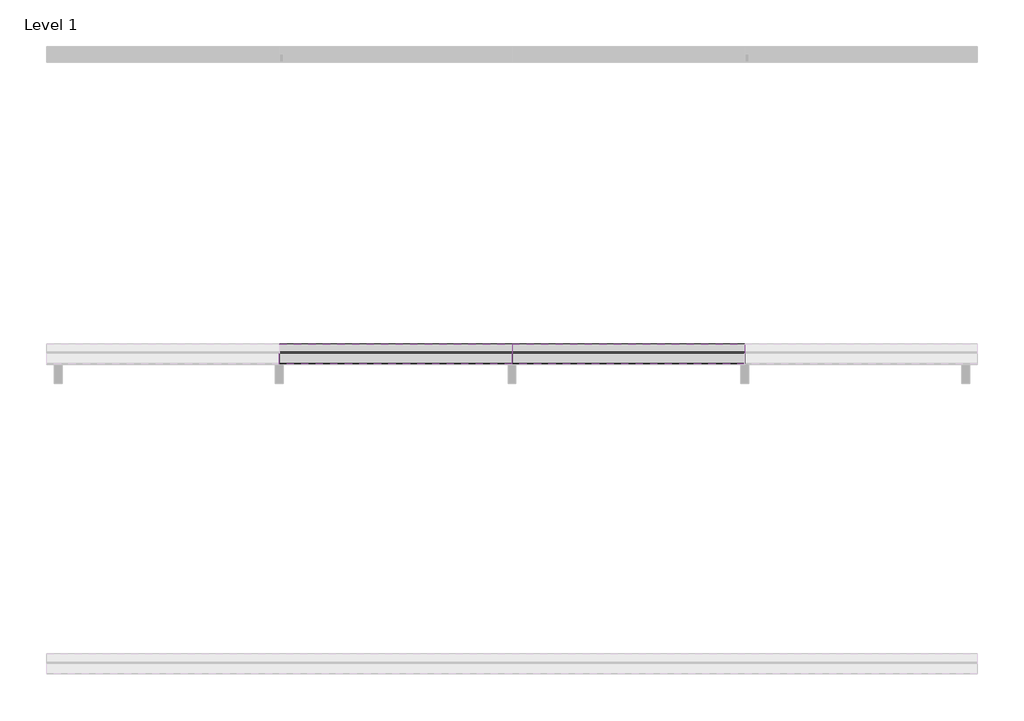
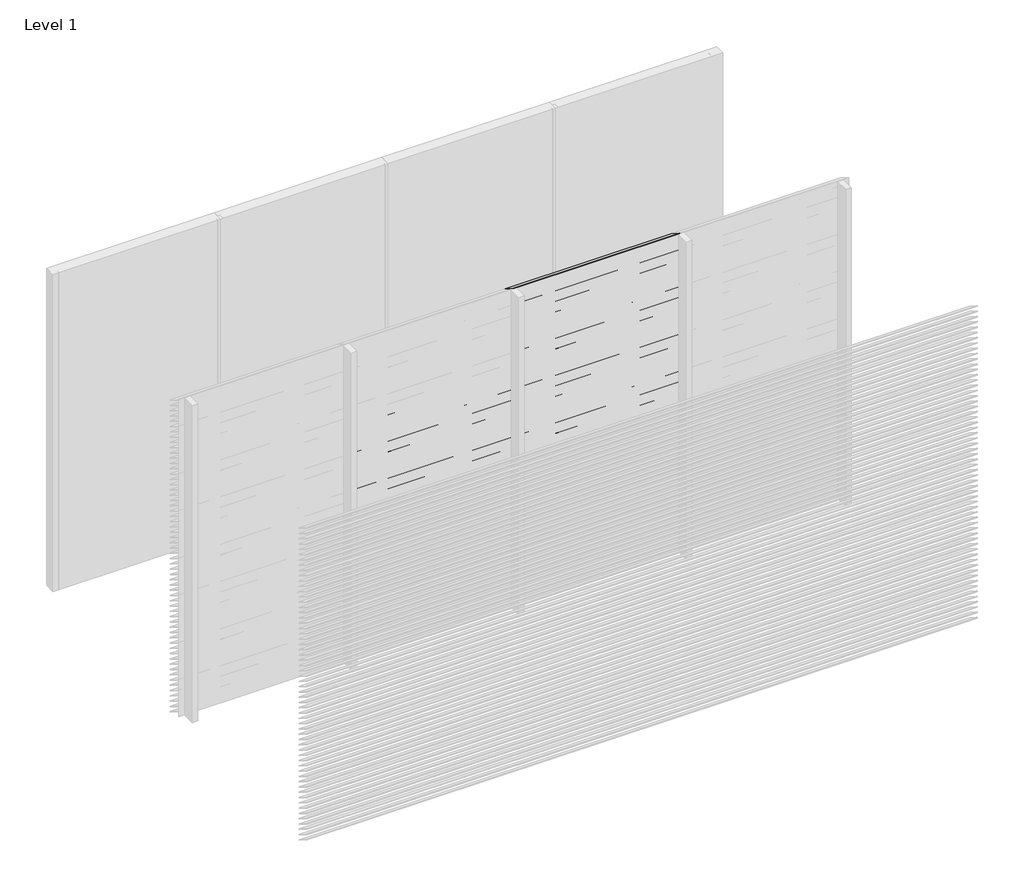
# One storey, part 3 of 13: 95 proxies.
"""IFC4 building model written with IfcOpenShell, lengths in millimetres."""

import ifcopenshell
import ifcopenshell.guid

model = None  # the IFC model being written
_history = None  # IfcOwnerHistory: only IFC2X3 demands one
_inside = {}  # id of a spatial element -> (the spatial element, [elements in it])
_under = {}  # id of a project, library or spatial element -> (it, [spatial elements below it])
_declared = {}  # id of a project -> (the project, [libraries it declares])
_typed = {}  # id of a type object -> (the type object, [elements of that type])
_made_of = {}  # id of a material, layer set ... -> (it, [elements and type objects made of it])


def new_model(schema):
    """Start an empty IFC model of exactly this schema.

    Asked for "IFC4X3", IfcOpenShell would pick the latest addendum, in which some entities
    have other attributes; the version numbers below select the first issue.
    IFC2X3 requires an IfcOwnerHistory on every rooted entity: one is made here for all.
    """
    global model, _history
    if schema == "IFC4X3":
        model = ifcopenshell.file(schema_version=(4, 3, 0, 0))
    else:
        model = ifcopenshell.file(schema=schema)
    _inside.clear()
    _under.clear()
    _declared.clear()
    _typed.clear()
    _made_of.clear()
    _history = None
    if model.schema == "IFC2X3":
        org = make("IfcOrganization", Name="unknown")
        user = make(
            "IfcPersonAndOrganization",
            ThePerson=make("IfcPerson", FamilyName="unknown"),
            TheOrganization=org,
        )
        app = make(
            "IfcApplication",
            ApplicationDeveloper=org,
            Version="unknown",
            ApplicationFullName="unknown",
            ApplicationIdentifier="unknown",
        )
        _history = make(
            "IfcOwnerHistory",
            OwningUser=user,
            OwningApplication=app,
            ChangeAction="ADDED",
            CreationDate=0,
        )
    return model


def make(cls, **values):
    """One entity of the class cls with the attributes given. An attribute that is None is left unset."""
    return model.create_entity(
        cls, **{name: value for name, value in values.items() if value is not None}
    )


def rooted(cls, **values):
    """An entity with a GlobalId (a new one), such as an element, a storey or a relation."""
    return make(cls, GlobalId=ifcopenshell.guid.new(), OwnerHistory=_history, **values)


def si_unit(unit_type, name, prefix=None):
    """IfcSIUnit, for example si_unit("LENGTHUNIT", "METRE", prefix="MILLI")."""
    return make("IfcSIUnit", UnitType=unit_type, Prefix=prefix, Name=name)


def assignment(units):
    """IfcUnitAssignment: the units of a project."""
    return None if units is None else make("IfcUnitAssignment", Units=units)


def point(xyz):
    """IfcCartesianPoint."""
    return None if xyz is None else make("IfcCartesianPoint", Coordinates=xyz)


def direction(xyz):
    """IfcDirection."""
    return None if xyz is None else make("IfcDirection", DirectionRatios=xyz)


def frame(location, z_axis=None, x_axis=None):
    """IfcAxis2Placement3D, a coordinate frame: its origin and axes. An axis left out is left unset."""
    return make(
        "IfcAxis2Placement3D",
        Location=point(location),
        Axis=direction(z_axis),
        RefDirection=direction(x_axis),
    )


def origin():
    """The frame at (0, 0, 0) with its axes left unset."""
    return frame((0.0, 0.0, 0.0))


def place(relative_to, where):
    """IfcLocalPlacement: puts the frame where relative to a parent placement (None: the world)."""
    return make(
        "IfcLocalPlacement", PlacementRelTo=relative_to, RelativePlacement=where
    )


def context(
    kind, dimensions, precision=None, world=None, true_north=None, identifier=None
):
    """IfcGeometricRepresentationContext, for example the 3D "Model" context."""
    return make(
        "IfcGeometricRepresentationContext",
        ContextIdentifier=identifier,
        ContextType=kind,
        CoordinateSpaceDimension=dimensions,
        Precision=precision,
        WorldCoordinateSystem=world,
        TrueNorth=true_north,
    )


def project(units=None, contexts=None):
    """IfcProject with its units and contexts."""
    return rooted(
        "IfcProject",
        Name="project",
        RepresentationContexts=contexts,
        UnitsInContext=assignment(units),
    )


def spatial(cls, under=None, at=None, **own):
    """A site, building, storey or space (cls), placed at a placement, below another one or the project."""
    s = rooted(cls, ObjectPlacement=at, **own)
    if under is not None:
        _under.setdefault(under.id(), (under, []))[1].append(s)
    return s


def polyline(points):
    """IfcPolyline through the points."""
    return make("IfcPolyline", Points=[point(p) for p in points])


def outline(outer, holes=None, kind="AREA"):
    """IfcArbitraryClosedProfileDef: a profile drawn as a closed curve; with holes, ...WithVoids."""
    if holes is None:
        return make("IfcArbitraryClosedProfileDef", ProfileType=kind, OuterCurve=outer)
    return make(
        "IfcArbitraryProfileDefWithVoids",
        ProfileType=kind,
        OuterCurve=outer,
        InnerCurves=holes,
    )


def extrude(swept, where, along, depth):
    """IfcExtrudedAreaSolid: the profile swept, set in the frame where, extruded along a direction by depth."""
    return make(
        "IfcExtrudedAreaSolid",
        SweptArea=swept,
        Position=where,
        ExtrudedDirection=direction(along),
        Depth=depth,
    )


def shape(context_of_items, identifier, shape_type, items):
    """IfcShapeRepresentation: the items that make up one representation, for example the "Body"."""
    return make(
        "IfcShapeRepresentation",
        ContextOfItems=context_of_items,
        RepresentationIdentifier=identifier,
        RepresentationType=shape_type,
        Items=items,
    )


def made_of(thing, what):
    """Note that an element or type object is made of a material, layer set ...; save() writes the relation."""
    if what is not None:
        _made_of.setdefault(what.id(), (what, []))[1].append(thing)
    return thing


def element(
    cls,
    number,
    at=None,
    inside=None,
    cuts=None,
    type_object=None,
    material=None,
    context=None,
    identifier="Body",
    shape_type=None,
    held_by="IfcProductDefinitionShape",
    body=None,
    shapes=None,
    **own,
):
    """One element of the class cls, such as IfcWall. Its Tag is "e" and its number.

    at: its placement. inside: the storey or other place that contains it. cuts: it is an
    opening in that element (IfcRelVoidsElement). A single representation is given by context,
    identifier, shape_type and body (its items); several are given by shapes. held_by: the class
    of the entity that holds the representations. save() writes the other relations.
    """
    e = rooted(cls, Tag="e%d" % number, ObjectPlacement=at, **own)
    if body is not None:
        shapes = [shape(context, identifier, shape_type, body)]
    if shapes is not None:
        e.Representation = make(held_by, Representations=shapes)
    if inside is not None:
        _inside.setdefault(inside.id(), (inside, []))[1].append(e)
    if cuts is not None:
        rooted(
            "IfcRelVoidsElement", RelatingBuildingElement=cuts, RelatedOpeningElement=e
        )
    if type_object is not None:
        _typed.setdefault(type_object.id(), (type_object, []))[1].append(e)
    return made_of(e, material)


def aggregate(whole, parts):
    """IfcRelAggregates: a whole, such as a stair, and the parts it consists of."""
    return rooted("IfcRelAggregates", RelatingObject=whole, RelatedObjects=parts)


def save(model, path):
    """Write the relations noted so far, then the file.

    IfcRelAggregates (storeys below a building ...), IfcRelContainedInSpatialStructure (elements
    in a storey), IfcRelDefinesByType, IfcRelAssociatesMaterial and IfcRelDeclares: one each for
    every whole, place, type object, material and project.
    """
    for whole, parts in _under.values():
        aggregate(whole, parts)
    for where, things in _inside.values():
        rooted(
            "IfcRelContainedInSpatialStructure",
            RelatedElements=things,
            RelatingStructure=where,
        )
    for kind, things in _typed.values():
        rooted("IfcRelDefinesByType", RelatedObjects=things, RelatingType=kind)
    for what, things in _made_of.values():
        rooted("IfcRelAssociatesMaterial", RelatedObjects=things, RelatingMaterial=what)
    for by, libraries in _declared.values():
        rooted("IfcRelDeclares", RelatingContext=by, RelatedDefinitions=libraries)
    model.write(path)


model = new_model("IFC4")

# Units and contexts
model_context = context("Model", 3, world=origin())
ifc_project = project(units=[si_unit("LENGTHUNIT", "METRE", prefix="MILLI")], contexts=[model_context])

# Site, building, storey
site = spatial("IfcSite", under=ifc_project)
building = spatial("IfcBuilding", under=site)
storey = spatial("IfcBuildingStorey", under=building, Name="Level 1", Elevation=0.0)

# Proxies
placement = place(None, origin())
element("IfcBuildingElementProxy", 1, Name="Wall Sweeps", at=placement, inside=storey, context=model_context, shape_type="SweptSolid", body=[
    extrude(outline(polyline([(-17995.0, 3000.0), (-17995.0, 2998.0), (-17868.0, 2919.0), (-17868.0, 2913.0), (-17997.0, 2993.2440945), (-17997.0, 3000.0), (-17995.0, 3000.0)])), frame((3000.0, 0.0, 0.0), z_axis=(1.0, 0.0, 0.0), x_axis=(0.0, 1.0, 0.0)), (0.0, 0.0, 1.0), 1499.9999998),
])
element("IfcBuildingElementProxy", 2, Name="Wall Sweeps", at=placement, inside=storey, context=model_context, shape_type="SweptSolid", body=[
    extrude(outline(polyline([(-17995.0, 2950.0), (-17995.0, 2948.0), (-17868.0, 2869.0), (-17868.0, 2863.0), (-17997.0, 2943.2440945), (-17997.0, 2950.0), (-17995.0, 2950.0)])), frame((3000.0, 0.0, 0.0), z_axis=(1.0, 0.0, 0.0), x_axis=(0.0, 1.0, 0.0)), (0.0, 0.0, 1.0), 1499.9999998),
])
element("IfcBuildingElementProxy", 3, Name="Wall Sweeps", at=placement, inside=storey, context=model_context, shape_type="SweptSolid", body=[
    extrude(outline(polyline([(-17995.0, 2900.0), (-17995.0, 2898.0), (-17868.0, 2819.0), (-17868.0, 2813.0), (-17997.0, 2893.2440945), (-17997.0, 2900.0), (-17995.0, 2900.0)])), frame((3000.0, 0.0, 0.0), z_axis=(1.0, 0.0, 0.0), x_axis=(0.0, 1.0, 0.0)), (0.0, 0.0, 1.0), 1499.9999998),
])
element("IfcBuildingElementProxy", 4, Name="Wall Sweeps", at=placement, inside=storey, context=model_context, shape_type="SweptSolid", body=[
    extrude(outline(polyline([(-17995.0, 2850.0), (-17995.0, 2848.0), (-17868.0, 2769.0), (-17868.0, 2763.0), (-17997.0, 2843.2440945), (-17997.0, 2850.0), (-17995.0, 2850.0)])), frame((3000.0, 0.0, 0.0), z_axis=(1.0, 0.0, 0.0), x_axis=(0.0, 1.0, 0.0)), (0.0, 0.0, 1.0), 1499.9999998),
])
element("IfcBuildingElementProxy", 5, Name="Wall Sweeps", at=placement, inside=storey, context=model_context, shape_type="SweptSolid", body=[
    extrude(outline(polyline([(-17995.0, 2800.0), (-17995.0, 2798.0), (-17868.0, 2719.0), (-17868.0, 2713.0), (-17997.0, 2793.2440945), (-17997.0, 2800.0), (-17995.0, 2800.0)])), frame((3000.0, 0.0, 0.0), z_axis=(1.0, 0.0, 0.0), x_axis=(0.0, 1.0, 0.0)), (0.0, 0.0, 1.0), 1499.9999998),
])
element("IfcBuildingElementProxy", 6, Name="Wall Sweeps", at=placement, inside=storey, context=model_context, shape_type="SweptSolid", body=[
    extrude(outline(polyline([(-17995.0, 2750.0), (-17995.0, 2748.0), (-17868.0, 2669.0), (-17868.0, 2663.0), (-17997.0, 2743.2440945), (-17997.0, 2750.0), (-17995.0, 2750.0)])), frame((3000.0, 0.0, 0.0), z_axis=(1.0, 0.0, 0.0), x_axis=(0.0, 1.0, 0.0)), (0.0, 0.0, 1.0), 1499.9999998),
])
element("IfcBuildingElementProxy", 7, Name="Wall Sweeps", at=placement, inside=storey, context=model_context, shape_type="SweptSolid", body=[
    extrude(outline(polyline([(-17995.0, 2700.0), (-17995.0, 2698.0), (-17868.0, 2619.0), (-17868.0, 2613.0), (-17997.0, 2693.2440945), (-17997.0, 2700.0), (-17995.0, 2700.0)])), frame((3000.0, 0.0, 0.0), z_axis=(1.0, 0.0, 0.0), x_axis=(0.0, 1.0, 0.0)), (0.0, 0.0, 1.0), 1499.9999998),
])
element("IfcBuildingElementProxy", 8, Name="Wall Sweeps", at=placement, inside=storey, context=model_context, shape_type="SweptSolid", body=[
    extrude(outline(polyline([(-17995.0, 2650.0), (-17995.0, 2648.0), (-17868.0, 2569.0), (-17868.0, 2563.0), (-17997.0, 2643.2440945), (-17997.0, 2650.0), (-17995.0, 2650.0)])), frame((3000.0, 0.0, 0.0), z_axis=(1.0, 0.0, 0.0), x_axis=(0.0, 1.0, 0.0)), (0.0, 0.0, 1.0), 1499.9999998),
])
element("IfcBuildingElementProxy", 9, Name="Wall Sweeps", at=placement, inside=storey, context=model_context, shape_type="SweptSolid", body=[
    extrude(outline(polyline([(-17995.0, 2600.0), (-17995.0, 2598.0), (-17868.0, 2519.0), (-17868.0, 2513.0), (-17997.0, 2593.2440945), (-17997.0, 2600.0), (-17995.0, 2600.0)])), frame((3000.0, 0.0, 0.0), z_axis=(1.0, 0.0, 0.0), x_axis=(0.0, 1.0, 0.0)), (0.0, 0.0, 1.0), 1499.9999998),
])
element("IfcBuildingElementProxy", 10, Name="Wall Sweeps", at=placement, inside=storey, context=model_context, shape_type="SweptSolid", body=[
    extrude(outline(polyline([(-17995.0, 2550.0), (-17995.0, 2548.0), (-17868.0, 2469.0), (-17868.0, 2463.0), (-17997.0, 2543.2440945), (-17997.0, 2550.0), (-17995.0, 2550.0)])), frame((3000.0, 0.0, 0.0), z_axis=(1.0, 0.0, 0.0), x_axis=(0.0, 1.0, 0.0)), (0.0, 0.0, 1.0), 1499.9999998),
])
element("IfcBuildingElementProxy", 11, Name="Wall Sweeps", at=placement, inside=storey, context=model_context, shape_type="SweptSolid", body=[
    extrude(outline(polyline([(-17995.0, 2500.0), (-17995.0, 2498.0), (-17868.0, 2419.0), (-17868.0, 2413.0), (-17997.0, 2493.2440945), (-17997.0, 2500.0), (-17995.0, 2500.0)])), frame((3000.0, 0.0, 0.0), z_axis=(1.0, 0.0, 0.0), x_axis=(0.0, 1.0, 0.0)), (0.0, 0.0, 1.0), 1499.9999998),
])
element("IfcBuildingElementProxy", 12, Name="Wall Sweeps", at=placement, inside=storey, context=model_context, shape_type="SweptSolid", body=[
    extrude(outline(polyline([(-17995.0, 2450.0), (-17995.0, 2448.0), (-17868.0, 2369.0), (-17868.0, 2363.0), (-17997.0, 2443.2440945), (-17997.0, 2450.0), (-17995.0, 2450.0)])), frame((3000.0, 0.0, 0.0), z_axis=(1.0, 0.0, 0.0), x_axis=(0.0, 1.0, 0.0)), (0.0, 0.0, 1.0), 1499.9999998),
])
element("IfcBuildingElementProxy", 13, Name="Wall Sweeps", at=placement, inside=storey, context=model_context, shape_type="SweptSolid", body=[
    extrude(outline(polyline([(-17995.0, 2400.0), (-17995.0, 2398.0), (-17868.0, 2319.0), (-17868.0, 2313.0), (-17997.0, 2393.2440945), (-17997.0, 2400.0), (-17995.0, 2400.0)])), frame((3000.0, 0.0, 0.0), z_axis=(1.0, 0.0, 0.0), x_axis=(0.0, 1.0, 0.0)), (0.0, 0.0, 1.0), 1499.9999998),
])
element("IfcBuildingElementProxy", 14, Name="Wall Sweeps", at=placement, inside=storey, context=model_context, shape_type="SweptSolid", body=[
    extrude(outline(polyline([(-17995.0, 2350.0), (-17995.0, 2348.0), (-17868.0, 2269.0), (-17868.0, 2263.0), (-17997.0, 2343.2440945), (-17997.0, 2350.0), (-17995.0, 2350.0)])), frame((3000.0, 0.0, 0.0), z_axis=(1.0, 0.0, 0.0), x_axis=(0.0, 1.0, 0.0)), (0.0, 0.0, 1.0), 1499.9999998),
])
element("IfcBuildingElementProxy", 15, Name="Wall Sweeps", at=placement, inside=storey, context=model_context, shape_type="SweptSolid", body=[
    extrude(outline(polyline([(-17995.0, 2300.0), (-17995.0, 2298.0), (-17868.0, 2219.0), (-17868.0, 2213.0), (-17997.0, 2293.2440945), (-17997.0, 2300.0), (-17995.0, 2300.0)])), frame((3000.0, 0.0, 0.0), z_axis=(1.0, 0.0, 0.0), x_axis=(0.0, 1.0, 0.0)), (0.0, 0.0, 1.0), 1499.9999998),
])
element("IfcBuildingElementProxy", 16, Name="Wall Sweeps", at=placement, inside=storey, context=model_context, shape_type="SweptSolid", body=[
    extrude(outline(polyline([(-17995.0, 2250.0), (-17995.0, 2248.0), (-17868.0, 2169.0), (-17868.0, 2163.0), (-17997.0, 2243.2440945), (-17997.0, 2250.0), (-17995.0, 2250.0)])), frame((3000.0, 0.0, 0.0), z_axis=(1.0, 0.0, 0.0), x_axis=(0.0, 1.0, 0.0)), (0.0, 0.0, 1.0), 1499.9999998),
])
element("IfcBuildingElementProxy", 17, Name="Wall Sweeps", at=placement, inside=storey, context=model_context, shape_type="SweptSolid", body=[
    extrude(outline(polyline([(-17995.0, 2200.0), (-17995.0, 2198.0), (-17868.0, 2119.0), (-17868.0, 2113.0), (-17997.0, 2193.2440945), (-17997.0, 2200.0), (-17995.0, 2200.0)])), frame((3000.0, 0.0, 0.0), z_axis=(1.0, 0.0, 0.0), x_axis=(0.0, 1.0, 0.0)), (0.0, 0.0, 1.0), 1499.9999998),
])
element("IfcBuildingElementProxy", 18, Name="Wall Sweeps", at=placement, inside=storey, context=model_context, shape_type="SweptSolid", body=[
    extrude(outline(polyline([(-17995.0, 2150.0), (-17995.0, 2148.0), (-17868.0, 2069.0), (-17868.0, 2063.0), (-17997.0, 2143.2440945), (-17997.0, 2150.0), (-17995.0, 2150.0)])), frame((3000.0, 0.0, 0.0), z_axis=(1.0, 0.0, 0.0), x_axis=(0.0, 1.0, 0.0)), (0.0, 0.0, 1.0), 1499.9999998),
])
element("IfcBuildingElementProxy", 19, Name="Wall Sweeps", at=placement, inside=storey, context=model_context, shape_type="SweptSolid", body=[
    extrude(outline(polyline([(-17995.0, 2100.0), (-17995.0, 2098.0), (-17868.0, 2019.0), (-17868.0, 2013.0), (-17997.0, 2093.2440945), (-17997.0, 2100.0), (-17995.0, 2100.0)])), frame((3000.0, 0.0, 0.0), z_axis=(1.0, 0.0, 0.0), x_axis=(0.0, 1.0, 0.0)), (0.0, 0.0, 1.0), 1499.9999998),
])
element("IfcBuildingElementProxy", 20, Name="Wall Sweeps", at=placement, inside=storey, context=model_context, shape_type="SweptSolid", body=[
    extrude(outline(polyline([(-17995.0, 2050.0), (-17995.0, 2048.0), (-17868.0, 1969.0), (-17868.0, 1963.0), (-17997.0, 2043.2440945), (-17997.0, 2050.0), (-17995.0, 2050.0)])), frame((3000.0, 0.0, 0.0), z_axis=(1.0, 0.0, 0.0), x_axis=(0.0, 1.0, 0.0)), (0.0, 0.0, 1.0), 1499.9999998),
])
element("IfcBuildingElementProxy", 21, Name="Wall Sweeps", at=placement, inside=storey, context=model_context, shape_type="SweptSolid", body=[
    extrude(outline(polyline([(-17995.0, 2000.0), (-17995.0, 1998.0), (-17868.0, 1919.0), (-17868.0, 1913.0), (-17997.0, 1993.2440945), (-17997.0, 2000.0), (-17995.0, 2000.0)])), frame((3000.0, 0.0, 0.0), z_axis=(1.0, 0.0, 0.0), x_axis=(0.0, 1.0, 0.0)), (0.0, 0.0, 1.0), 1499.9999998),
])
element("IfcBuildingElementProxy", 22, Name="Wall Sweeps", at=placement, inside=storey, context=model_context, shape_type="SweptSolid", body=[
    extrude(outline(polyline([(-17995.0, 1950.0), (-17995.0, 1948.0), (-17868.0, 1869.0), (-17868.0, 1863.0), (-17997.0, 1943.2440945), (-17997.0, 1950.0), (-17995.0, 1950.0)])), frame((3000.0, 0.0, 0.0), z_axis=(1.0, 0.0, 0.0), x_axis=(0.0, 1.0, 0.0)), (0.0, 0.0, 1.0), 1499.9999998),
])
element("IfcBuildingElementProxy", 23, Name="Wall Sweeps", at=placement, inside=storey, context=model_context, shape_type="SweptSolid", body=[
    extrude(outline(polyline([(-17995.0, 1900.0), (-17995.0, 1898.0), (-17868.0, 1819.0), (-17868.0, 1813.0), (-17997.0, 1893.2440945), (-17997.0, 1900.0), (-17995.0, 1900.0)])), frame((3000.0, 0.0, 0.0), z_axis=(1.0, 0.0, 0.0), x_axis=(0.0, 1.0, 0.0)), (0.0, 0.0, 1.0), 1499.9999998),
])
element("IfcBuildingElementProxy", 24, Name="Wall Sweeps", at=placement, inside=storey, context=model_context, shape_type="SweptSolid", body=[
    extrude(outline(polyline([(-17995.0, 1850.0), (-17995.0, 1848.0), (-17868.0, 1769.0), (-17868.0, 1763.0), (-17997.0, 1843.2440945), (-17997.0, 1850.0), (-17995.0, 1850.0)])), frame((3000.0, 0.0, 0.0), z_axis=(1.0, 0.0, 0.0), x_axis=(0.0, 1.0, 0.0)), (0.0, 0.0, 1.0), 1499.9999998),
])
element("IfcBuildingElementProxy", 25, Name="Wall Sweeps", at=placement, inside=storey, context=model_context, shape_type="SweptSolid", body=[
    extrude(outline(polyline([(-17995.0, 1800.0), (-17995.0, 1798.0), (-17868.0, 1719.0), (-17868.0, 1713.0), (-17997.0, 1793.2440945), (-17997.0, 1800.0), (-17995.0, 1800.0)])), frame((3000.0, 0.0, 0.0), z_axis=(1.0, 0.0, 0.0), x_axis=(0.0, 1.0, 0.0)), (0.0, 0.0, 1.0), 1499.9999998),
])
element("IfcBuildingElementProxy", 26, Name="Wall Sweeps", at=placement, inside=storey, context=model_context, shape_type="SweptSolid", body=[
    extrude(outline(polyline([(-17995.0, 1750.0), (-17995.0, 1748.0), (-17868.0, 1669.0), (-17868.0, 1663.0), (-17997.0, 1743.2440945), (-17997.0, 1750.0), (-17995.0, 1750.0)])), frame((3000.0, 0.0, 0.0), z_axis=(1.0, 0.0, 0.0), x_axis=(0.0, 1.0, 0.0)), (0.0, 0.0, 1.0), 1499.9999998),
])
element("IfcBuildingElementProxy", 27, Name="Wall Sweeps", at=placement, inside=storey, context=model_context, shape_type="SweptSolid", body=[
    extrude(outline(polyline([(-17995.0, 1700.0), (-17995.0, 1698.0), (-17868.0, 1619.0), (-17868.0, 1613.0), (-17997.0, 1693.2440945), (-17997.0, 1700.0), (-17995.0, 1700.0)])), frame((3000.0, 0.0, 0.0), z_axis=(1.0, 0.0, 0.0), x_axis=(0.0, 1.0, 0.0)), (0.0, 0.0, 1.0), 1499.9999998),
])
element("IfcBuildingElementProxy", 28, Name="Wall Sweeps", at=placement, inside=storey, context=model_context, shape_type="SweptSolid", body=[
    extrude(outline(polyline([(-17995.0, 1650.0), (-17995.0, 1648.0), (-17868.0, 1569.0), (-17868.0, 1563.0), (-17997.0, 1643.2440945), (-17997.0, 1650.0), (-17995.0, 1650.0)])), frame((3000.0, 0.0, 0.0), z_axis=(1.0, 0.0, 0.0), x_axis=(0.0, 1.0, 0.0)), (0.0, 0.0, 1.0), 1499.9999998),
])
element("IfcBuildingElementProxy", 29, Name="Wall Sweeps", at=placement, inside=storey, context=model_context, shape_type="SweptSolid", body=[
    extrude(outline(polyline([(-17995.0, 1600.0), (-17995.0, 1598.0), (-17868.0, 1519.0), (-17868.0, 1513.0), (-17997.0, 1593.2440945), (-17997.0, 1600.0), (-17995.0, 1600.0)])), frame((3000.0, 0.0, 0.0), z_axis=(1.0, 0.0, 0.0), x_axis=(0.0, 1.0, 0.0)), (0.0, 0.0, 1.0), 1499.9999998),
])
element("IfcBuildingElementProxy", 30, Name="Wall Sweeps", at=placement, inside=storey, context=model_context, shape_type="SweptSolid", body=[
    extrude(outline(polyline([(-17995.0, 1550.0), (-17995.0, 1548.0), (-17868.0, 1469.0), (-17868.0, 1463.0), (-17997.0, 1543.2440945), (-17997.0, 1550.0), (-17995.0, 1550.0)])), frame((3000.0, 0.0, 0.0), z_axis=(1.0, 0.0, 0.0), x_axis=(0.0, 1.0, 0.0)), (0.0, 0.0, 1.0), 1499.9999998),
])
element("IfcBuildingElementProxy", 31, Name="Wall Sweeps", at=placement, inside=storey, context=model_context, shape_type="SweptSolid", body=[
    extrude(outline(polyline([(-17995.0, 1500.0), (-17995.0, 1498.0), (-17868.0, 1419.0), (-17868.0, 1413.0), (-17997.0, 1493.2440945), (-17997.0, 1500.0), (-17995.0, 1500.0)])), frame((3000.0, 0.0, 0.0), z_axis=(1.0, 0.0, 0.0), x_axis=(0.0, 1.0, 0.0)), (0.0, 0.0, 1.0), 1499.9999998),
])
element("IfcBuildingElementProxy", 32, Name="Wall Sweeps", at=placement, inside=storey, context=model_context, shape_type="SweptSolid", body=[
    extrude(outline(polyline([(-17995.0, 1450.0), (-17995.0, 1448.0), (-17868.0, 1369.0), (-17868.0, 1363.0), (-17997.0, 1443.2440945), (-17997.0, 1450.0), (-17995.0, 1450.0)])), frame((3000.0, 0.0, 0.0), z_axis=(1.0, 0.0, 0.0), x_axis=(0.0, 1.0, 0.0)), (0.0, 0.0, 1.0), 1499.9999998),
])
element("IfcBuildingElementProxy", 33, Name="Wall Sweeps", at=placement, inside=storey, context=model_context, shape_type="SweptSolid", body=[
    extrude(outline(polyline([(-17995.0, 1400.0), (-17995.0, 1398.0), (-17868.0, 1319.0), (-17868.0, 1313.0), (-17997.0, 1393.2440945), (-17997.0, 1400.0), (-17995.0, 1400.0)])), frame((3000.0, 0.0, 0.0), z_axis=(1.0, 0.0, 0.0), x_axis=(0.0, 1.0, 0.0)), (0.0, 0.0, 1.0), 1499.9999998),
])
element("IfcBuildingElementProxy", 34, Name="Wall Sweeps", at=placement, inside=storey, context=model_context, shape_type="SweptSolid", body=[
    extrude(outline(polyline([(-17995.0, 1350.0), (-17995.0, 1348.0), (-17868.0, 1269.0), (-17868.0, 1263.0), (-17997.0, 1343.2440945), (-17997.0, 1350.0), (-17995.0, 1350.0)])), frame((3000.0, 0.0, 0.0), z_axis=(1.0, 0.0, 0.0), x_axis=(0.0, 1.0, 0.0)), (0.0, 0.0, 1.0), 1499.9999998),
])
element("IfcBuildingElementProxy", 35, Name="Wall Sweeps", at=placement, inside=storey, context=model_context, shape_type="SweptSolid", body=[
    extrude(outline(polyline([(-17995.0, 1300.0), (-17995.0, 1298.0), (-17868.0, 1219.0), (-17868.0, 1213.0), (-17997.0, 1293.2440945), (-17997.0, 1300.0), (-17995.0, 1300.0)])), frame((3000.0, 0.0, 0.0), z_axis=(1.0, 0.0, 0.0), x_axis=(0.0, 1.0, 0.0)), (0.0, 0.0, 1.0), 1499.9999998),
])
element("IfcBuildingElementProxy", 36, Name="Wall Sweeps", at=placement, inside=storey, context=model_context, shape_type="SweptSolid", body=[
    extrude(outline(polyline([(-17995.0, 1250.0), (-17995.0, 1248.0), (-17868.0, 1169.0), (-17868.0, 1163.0), (-17997.0, 1243.2440945), (-17997.0, 1250.0), (-17995.0, 1250.0)])), frame((3000.0, 0.0, 0.0), z_axis=(1.0, 0.0, 0.0), x_axis=(0.0, 1.0, 0.0)), (0.0, 0.0, 1.0), 1499.9999998),
])
element("IfcBuildingElementProxy", 37, Name="Wall Sweeps", at=placement, inside=storey, context=model_context, shape_type="SweptSolid", body=[
    extrude(outline(polyline([(-17995.0, 1200.0), (-17995.0, 1198.0), (-17868.0, 1119.0), (-17868.0, 1113.0), (-17997.0, 1193.2440945), (-17997.0, 1200.0), (-17995.0, 1200.0)])), frame((3000.0, 0.0, 0.0), z_axis=(1.0, 0.0, 0.0), x_axis=(0.0, 1.0, 0.0)), (0.0, 0.0, 1.0), 1499.9999998),
])
element("IfcBuildingElementProxy", 38, Name="Wall Sweeps", at=placement, inside=storey, context=model_context, shape_type="SweptSolid", body=[
    extrude(outline(polyline([(-17995.0, 1150.0), (-17995.0, 1148.0), (-17868.0, 1069.0), (-17868.0, 1063.0), (-17997.0, 1143.2440945), (-17997.0, 1150.0), (-17995.0, 1150.0)])), frame((3000.0, 0.0, 0.0), z_axis=(1.0, 0.0, 0.0), x_axis=(0.0, 1.0, 0.0)), (0.0, 0.0, 1.0), 1499.9999998),
])
element("IfcBuildingElementProxy", 39, Name="Wall Sweeps", at=placement, inside=storey, context=model_context, shape_type="SweptSolid", body=[
    extrude(outline(polyline([(-17995.0, 1100.0), (-17995.0, 1098.0), (-17868.0, 1019.0), (-17868.0, 1013.0), (-17997.0, 1093.2440945), (-17997.0, 1100.0), (-17995.0, 1100.0)])), frame((3000.0, 0.0, 0.0), z_axis=(1.0, 0.0, 0.0), x_axis=(0.0, 1.0, 0.0)), (0.0, 0.0, 1.0), 1499.9999998),
])
element("IfcBuildingElementProxy", 40, Name="Wall Sweeps", at=placement, inside=storey, context=model_context, shape_type="SweptSolid", body=[
    extrude(outline(polyline([(-17995.0, 1050.0), (-17995.0, 1048.0), (-17868.0, 969.0), (-17868.0, 963.0), (-17997.0, 1043.2440945), (-17997.0, 1050.0), (-17995.0, 1050.0)])), frame((3000.0, 0.0, 0.0), z_axis=(1.0, 0.0, 0.0), x_axis=(0.0, 1.0, 0.0)), (0.0, 0.0, 1.0), 1499.9999998),
])
element("IfcBuildingElementProxy", 41, Name="Wall Sweeps", at=placement, inside=storey, context=model_context, shape_type="SweptSolid", body=[
    extrude(outline(polyline([(-17995.0, 1000.0), (-17995.0, 998.0), (-17868.0, 919.0), (-17868.0, 913.0), (-17997.0, 993.2440945), (-17997.0, 1000.0), (-17995.0, 1000.0)])), frame((3000.0, 0.0, 0.0), z_axis=(1.0, 0.0, 0.0), x_axis=(0.0, 1.0, 0.0)), (0.0, 0.0, 1.0), 1499.9999998),
])
element("IfcBuildingElementProxy", 42, Name="Wall Sweeps", at=placement, inside=storey, context=model_context, shape_type="SweptSolid", body=[
    extrude(outline(polyline([(-17995.0, 950.0), (-17995.0, 948.0), (-17868.0, 869.0), (-17868.0, 863.0), (-17997.0, 943.2440945), (-17997.0, 950.0), (-17995.0, 950.0)])), frame((3000.0, 0.0, 0.0), z_axis=(1.0, 0.0, 0.0), x_axis=(0.0, 1.0, 0.0)), (0.0, 0.0, 1.0), 1499.9999998),
])
element("IfcBuildingElementProxy", 43, Name="Wall Sweeps", at=placement, inside=storey, context=model_context, shape_type="SweptSolid", body=[
    extrude(outline(polyline([(-17995.0, 900.0), (-17995.0, 898.0), (-17868.0, 819.0), (-17868.0, 813.0), (-17997.0, 893.2440945), (-17997.0, 900.0), (-17995.0, 900.0)])), frame((3000.0, 0.0, 0.0), z_axis=(1.0, 0.0, 0.0), x_axis=(0.0, 1.0, 0.0)), (0.0, 0.0, 1.0), 1499.9999998),
])
element("IfcBuildingElementProxy", 44, Name="Wall Sweeps", at=placement, inside=storey, context=model_context, shape_type="SweptSolid", body=[
    extrude(outline(polyline([(-17995.0, 850.0), (-17995.0, 848.0), (-17868.0, 769.0), (-17868.0, 763.0), (-17997.0, 843.2440945), (-17997.0, 850.0), (-17995.0, 850.0)])), frame((3000.0, 0.0, 0.0), z_axis=(1.0, 0.0, 0.0), x_axis=(0.0, 1.0, 0.0)), (0.0, 0.0, 1.0), 1499.9999998),
])
element("IfcBuildingElementProxy", 45, Name="Wall Sweeps", at=placement, inside=storey, context=model_context, shape_type="SweptSolid", body=[
    extrude(outline(polyline([(-17995.0, 800.0), (-17995.0, 798.0), (-17868.0, 719.0), (-17868.0, 713.0), (-17997.0, 793.2440945), (-17997.0, 800.0), (-17995.0, 800.0)])), frame((3000.0, 0.0, 0.0), z_axis=(1.0, 0.0, 0.0), x_axis=(0.0, 1.0, 0.0)), (0.0, 0.0, 1.0), 1499.9999998),
])
element("IfcBuildingElementProxy", 46, Name="Wall Sweeps", at=placement, inside=storey, context=model_context, shape_type="SweptSolid", body=[
    extrude(outline(polyline([(-17995.0, 750.0), (-17995.0, 748.0), (-17868.0, 669.0), (-17868.0, 663.0), (-17997.0, 743.2440945), (-17997.0, 750.0), (-17995.0, 750.0)])), frame((3000.0, 0.0, 0.0), z_axis=(1.0, 0.0, 0.0), x_axis=(0.0, 1.0, 0.0)), (0.0, 0.0, 1.0), 1499.9999998),
])
element("IfcBuildingElementProxy", 47, Name="Wall Sweeps", at=placement, inside=storey, context=model_context, shape_type="SweptSolid", body=[
    extrude(outline(polyline([(-17995.0, 700.0), (-17995.0, 698.0), (-17868.0, 619.0), (-17868.0, 613.0), (-17997.0, 693.2440945), (-17997.0, 700.0), (-17995.0, 700.0)])), frame((3000.0, 0.0, 0.0), z_axis=(1.0, 0.0, 0.0), x_axis=(0.0, 1.0, 0.0)), (0.0, 0.0, 1.0), 1499.9999998),
])
element("IfcBuildingElementProxy", 48, Name="Wall Sweeps", at=placement, inside=storey, context=model_context, shape_type="SweptSolid", body=[
    extrude(outline(polyline([(-17995.0, 650.0), (-17995.0, 648.0), (-17868.0, 569.0), (-17868.0, 563.0), (-17997.0, 643.2440945), (-17997.0, 650.0), (-17995.0, 650.0)])), frame((3000.0, 0.0, 0.0), z_axis=(1.0, 0.0, 0.0), x_axis=(0.0, 1.0, 0.0)), (0.0, 0.0, 1.0), 1499.9999998),
])
element("IfcBuildingElementProxy", 49, Name="Wall Sweeps", at=placement, inside=storey, context=model_context, shape_type="SweptSolid", body=[
    extrude(outline(polyline([(-17995.0, 600.0), (-17995.0, 598.0), (-17868.0, 519.0), (-17868.0, 513.0), (-17997.0, 593.2440945), (-17997.0, 600.0), (-17995.0, 600.0)])), frame((3000.0, 0.0, 0.0), z_axis=(1.0, 0.0, 0.0), x_axis=(0.0, 1.0, 0.0)), (0.0, 0.0, 1.0), 1499.9999998),
])
element("IfcBuildingElementProxy", 50, Name="Wall Sweeps", at=placement, inside=storey, context=model_context, shape_type="SweptSolid", body=[
    extrude(outline(polyline([(-17995.0, 550.0), (-17995.0, 548.0), (-17868.0, 469.0), (-17868.0, 463.0), (-17997.0, 543.2440945), (-17997.0, 550.0), (-17995.0, 550.0)])), frame((3000.0, 0.0, 0.0), z_axis=(1.0, 0.0, 0.0), x_axis=(0.0, 1.0, 0.0)), (0.0, 0.0, 1.0), 1499.9999998),
])
element("IfcBuildingElementProxy", 51, Name="Wall Sweeps", at=placement, inside=storey, context=model_context, shape_type="SweptSolid", body=[
    extrude(outline(polyline([(-17995.0, 2250.0), (-17995.0, 2248.0), (-17868.0, 2169.0), (-17868.0, 2163.0), (-17997.0, 2243.2440945), (-17997.0, 2250.0), (-17995.0, 2250.0)])), frame((1500.0000002, 0.0, 0.0), z_axis=(1.0, 0.0, 0.0), x_axis=(0.0, 1.0, 0.0)), (0.0, 0.0, 1.0), 1499.9999998),
])
element("IfcBuildingElementProxy", 52, Name="Wall Sweeps", at=placement, inside=storey, context=model_context, shape_type="SweptSolid", body=[
    extrude(outline(polyline([(-17995.0, 2200.0), (-17995.0, 2198.0), (-17868.0, 2119.0), (-17868.0, 2113.0), (-17997.0, 2193.2440945), (-17997.0, 2200.0), (-17995.0, 2200.0)])), frame((1500.0000002, 0.0, 0.0), z_axis=(1.0, 0.0, 0.0), x_axis=(0.0, 1.0, 0.0)), (0.0, 0.0, 1.0), 1499.9999998),
])
element("IfcBuildingElementProxy", 53, Name="Wall Sweeps", at=placement, inside=storey, context=model_context, shape_type="SweptSolid", body=[
    extrude(outline(polyline([(-17995.0, 2150.0), (-17995.0, 2148.0), (-17868.0, 2069.0), (-17868.0, 2063.0), (-17997.0, 2143.2440945), (-17997.0, 2150.0), (-17995.0, 2150.0)])), frame((1500.0000002, 0.0, 0.0), z_axis=(1.0, 0.0, 0.0), x_axis=(0.0, 1.0, 0.0)), (0.0, 0.0, 1.0), 1499.9999998),
])
element("IfcBuildingElementProxy", 54, Name="Wall Sweeps", at=placement, inside=storey, context=model_context, shape_type="SweptSolid", body=[
    extrude(outline(polyline([(-17995.0, 2100.0), (-17995.0, 2098.0), (-17868.0, 2019.0), (-17868.0, 2013.0), (-17997.0, 2093.2440945), (-17997.0, 2100.0), (-17995.0, 2100.0)])), frame((1500.0000002, 0.0, 0.0), z_axis=(1.0, 0.0, 0.0), x_axis=(0.0, 1.0, 0.0)), (0.0, 0.0, 1.0), 1499.9999998),
])
element("IfcBuildingElementProxy", 55, Name="Wall Sweeps", at=placement, inside=storey, context=model_context, shape_type="SweptSolid", body=[
    extrude(outline(polyline([(-17995.0, 2050.0), (-17995.0, 2048.0), (-17868.0, 1969.0), (-17868.0, 1963.0), (-17997.0, 2043.2440945), (-17997.0, 2050.0), (-17995.0, 2050.0)])), frame((1500.0000002, 0.0, 0.0), z_axis=(1.0, 0.0, 0.0), x_axis=(0.0, 1.0, 0.0)), (0.0, 0.0, 1.0), 1499.9999998),
])
element("IfcBuildingElementProxy", 56, Name="Wall Sweeps", at=placement, inside=storey, context=model_context, shape_type="SweptSolid", body=[
    extrude(outline(polyline([(-17995.0, 2000.0), (-17995.0, 1998.0), (-17868.0, 1919.0), (-17868.0, 1913.0), (-17997.0, 1993.2440945), (-17997.0, 2000.0), (-17995.0, 2000.0)])), frame((1500.0000002, 0.0, 0.0), z_axis=(1.0, 0.0, 0.0), x_axis=(0.0, 1.0, 0.0)), (0.0, 0.0, 1.0), 1499.9999998),
])
element("IfcBuildingElementProxy", 57, Name="Wall Sweeps", at=placement, inside=storey, context=model_context, shape_type="SweptSolid", body=[
    extrude(outline(polyline([(-17995.0, 1950.0), (-17995.0, 1948.0), (-17868.0, 1869.0), (-17868.0, 1863.0), (-17997.0, 1943.2440945), (-17997.0, 1950.0), (-17995.0, 1950.0)])), frame((1500.0000002, 0.0, 0.0), z_axis=(1.0, 0.0, 0.0), x_axis=(0.0, 1.0, 0.0)), (0.0, 0.0, 1.0), 1499.9999998),
])
element("IfcBuildingElementProxy", 58, Name="Wall Sweeps", at=placement, inside=storey, context=model_context, shape_type="SweptSolid", body=[
    extrude(outline(polyline([(-17995.0, 1900.0), (-17995.0, 1898.0), (-17868.0, 1819.0), (-17868.0, 1813.0), (-17997.0, 1893.2440945), (-17997.0, 1900.0), (-17995.0, 1900.0)])), frame((1500.0000002, 0.0, 0.0), z_axis=(1.0, 0.0, 0.0), x_axis=(0.0, 1.0, 0.0)), (0.0, 0.0, 1.0), 1499.9999998),
])
element("IfcBuildingElementProxy", 59, Name="Wall Sweeps", at=placement, inside=storey, context=model_context, shape_type="SweptSolid", body=[
    extrude(outline(polyline([(-17995.0, 1850.0), (-17995.0, 1848.0), (-17868.0, 1769.0), (-17868.0, 1763.0), (-17997.0, 1843.2440945), (-17997.0, 1850.0), (-17995.0, 1850.0)])), frame((1500.0000002, 0.0, 0.0), z_axis=(1.0, 0.0, 0.0), x_axis=(0.0, 1.0, 0.0)), (0.0, 0.0, 1.0), 1499.9999998),
])
element("IfcBuildingElementProxy", 60, Name="Wall Sweeps", at=placement, inside=storey, context=model_context, shape_type="SweptSolid", body=[
    extrude(outline(polyline([(-17995.0, 1800.0), (-17995.0, 1798.0), (-17868.0, 1719.0), (-17868.0, 1713.0), (-17997.0, 1793.2440945), (-17997.0, 1800.0), (-17995.0, 1800.0)])), frame((1500.0000002, 0.0, 0.0), z_axis=(1.0, 0.0, 0.0), x_axis=(0.0, 1.0, 0.0)), (0.0, 0.0, 1.0), 1499.9999998),
])
element("IfcBuildingElementProxy", 61, Name="Wall Sweeps", at=placement, inside=storey, context=model_context, shape_type="SweptSolid", body=[
    extrude(outline(polyline([(-17995.0, 1750.0), (-17995.0, 1748.0), (-17868.0, 1669.0), (-17868.0, 1663.0), (-17997.0, 1743.2440945), (-17997.0, 1750.0), (-17995.0, 1750.0)])), frame((1500.0000002, 0.0, 0.0), z_axis=(1.0, 0.0, 0.0), x_axis=(0.0, 1.0, 0.0)), (0.0, 0.0, 1.0), 1499.9999998),
])
element("IfcBuildingElementProxy", 62, Name="Wall Sweeps", at=placement, inside=storey, context=model_context, shape_type="SweptSolid", body=[
    extrude(outline(polyline([(-17995.0, 1700.0), (-17995.0, 1698.0), (-17868.0, 1619.0), (-17868.0, 1613.0), (-17997.0, 1693.2440945), (-17997.0, 1700.0), (-17995.0, 1700.0)])), frame((1500.0000002, 0.0, 0.0), z_axis=(1.0, 0.0, 0.0), x_axis=(0.0, 1.0, 0.0)), (0.0, 0.0, 1.0), 1499.9999998),
])
element("IfcBuildingElementProxy", 63, Name="Wall Sweeps", at=placement, inside=storey, context=model_context, shape_type="SweptSolid", body=[
    extrude(outline(polyline([(-17995.0, 1650.0), (-17995.0, 1648.0), (-17868.0, 1569.0), (-17868.0, 1563.0), (-17997.0, 1643.2440945), (-17997.0, 1650.0), (-17995.0, 1650.0)])), frame((1500.0000002, 0.0, 0.0), z_axis=(1.0, 0.0, 0.0), x_axis=(0.0, 1.0, 0.0)), (0.0, 0.0, 1.0), 1499.9999998),
])
element("IfcBuildingElementProxy", 64, Name="Wall Sweeps", at=placement, inside=storey, context=model_context, shape_type="SweptSolid", body=[
    extrude(outline(polyline([(-17995.0, 1600.0), (-17995.0, 1598.0), (-17868.0, 1519.0), (-17868.0, 1513.0), (-17997.0, 1593.2440945), (-17997.0, 1600.0), (-17995.0, 1600.0)])), frame((1500.0000002, 0.0, 0.0), z_axis=(1.0, 0.0, 0.0), x_axis=(0.0, 1.0, 0.0)), (0.0, 0.0, 1.0), 1499.9999998),
])
element("IfcBuildingElementProxy", 65, Name="Wall Sweeps", at=placement, inside=storey, context=model_context, shape_type="SweptSolid", body=[
    extrude(outline(polyline([(-17995.0, 1550.0), (-17995.0, 1548.0), (-17868.0, 1469.0), (-17868.0, 1463.0), (-17997.0, 1543.2440945), (-17997.0, 1550.0), (-17995.0, 1550.0)])), frame((1500.0000002, 0.0, 0.0), z_axis=(1.0, 0.0, 0.0), x_axis=(0.0, 1.0, 0.0)), (0.0, 0.0, 1.0), 1499.9999998),
])
element("IfcBuildingElementProxy", 66, Name="Wall Sweeps", at=placement, inside=storey, context=model_context, shape_type="SweptSolid", body=[
    extrude(outline(polyline([(-17995.0, 1500.0), (-17995.0, 1498.0), (-17868.0, 1419.0), (-17868.0, 1413.0), (-17997.0, 1493.2440945), (-17997.0, 1500.0), (-17995.0, 1500.0)])), frame((1500.0000002, 0.0, 0.0), z_axis=(1.0, 0.0, 0.0), x_axis=(0.0, 1.0, 0.0)), (0.0, 0.0, 1.0), 1499.9999998),
])
element("IfcBuildingElementProxy", 67, Name="Wall Sweeps", at=placement, inside=storey, context=model_context, shape_type="SweptSolid", body=[
    extrude(outline(polyline([(-17995.0, 1450.0), (-17995.0, 1448.0), (-17868.0, 1369.0), (-17868.0, 1363.0), (-17997.0, 1443.2440945), (-17997.0, 1450.0), (-17995.0, 1450.0)])), frame((1500.0000002, 0.0, 0.0), z_axis=(1.0, 0.0, 0.0), x_axis=(0.0, 1.0, 0.0)), (0.0, 0.0, 1.0), 1499.9999998),
])
element("IfcBuildingElementProxy", 68, Name="Wall Sweeps", at=placement, inside=storey, context=model_context, shape_type="SweptSolid", body=[
    extrude(outline(polyline([(-17995.0, 1400.0), (-17995.0, 1398.0), (-17868.0, 1319.0), (-17868.0, 1313.0), (-17997.0, 1393.2440945), (-17997.0, 1400.0), (-17995.0, 1400.0)])), frame((1500.0000002, 0.0, 0.0), z_axis=(1.0, 0.0, 0.0), x_axis=(0.0, 1.0, 0.0)), (0.0, 0.0, 1.0), 1499.9999998),
])
element("IfcBuildingElementProxy", 69, Name="Wall Sweeps", at=placement, inside=storey, context=model_context, shape_type="SweptSolid", body=[
    extrude(outline(polyline([(-17995.0, 1350.0), (-17995.0, 1348.0), (-17868.0, 1269.0), (-17868.0, 1263.0), (-17997.0, 1343.2440945), (-17997.0, 1350.0), (-17995.0, 1350.0)])), frame((1500.0000002, 0.0, 0.0), z_axis=(1.0, 0.0, 0.0), x_axis=(0.0, 1.0, 0.0)), (0.0, 0.0, 1.0), 1499.9999998),
])
element("IfcBuildingElementProxy", 70, Name="Wall Sweeps", at=placement, inside=storey, context=model_context, shape_type="SweptSolid", body=[
    extrude(outline(polyline([(-17995.0, 1300.0), (-17995.0, 1298.0), (-17868.0, 1219.0), (-17868.0, 1213.0), (-17997.0, 1293.2440945), (-17997.0, 1300.0), (-17995.0, 1300.0)])), frame((1500.0000002, 0.0, 0.0), z_axis=(1.0, 0.0, 0.0), x_axis=(0.0, 1.0, 0.0)), (0.0, 0.0, 1.0), 1499.9999998),
])
element("IfcBuildingElementProxy", 71, Name="Wall Sweeps", at=placement, inside=storey, context=model_context, shape_type="SweptSolid", body=[
    extrude(outline(polyline([(-17995.0, 1250.0), (-17995.0, 1248.0), (-17868.0, 1169.0), (-17868.0, 1163.0), (-17997.0, 1243.2440945), (-17997.0, 1250.0), (-17995.0, 1250.0)])), frame((1500.0000002, 0.0, 0.0), z_axis=(1.0, 0.0, 0.0), x_axis=(0.0, 1.0, 0.0)), (0.0, 0.0, 1.0), 1499.9999998),
])
element("IfcBuildingElementProxy", 72, Name="Wall Sweeps", at=placement, inside=storey, context=model_context, shape_type="SweptSolid", body=[
    extrude(outline(polyline([(-17995.0, 1200.0), (-17995.0, 1198.0), (-17868.0, 1119.0), (-17868.0, 1113.0), (-17997.0, 1193.2440945), (-17997.0, 1200.0), (-17995.0, 1200.0)])), frame((1500.0000002, 0.0, 0.0), z_axis=(1.0, 0.0, 0.0), x_axis=(0.0, 1.0, 0.0)), (0.0, 0.0, 1.0), 1499.9999998),
])
element("IfcBuildingElementProxy", 73, Name="Wall Sweeps", at=placement, inside=storey, context=model_context, shape_type="SweptSolid", body=[
    extrude(outline(polyline([(-17995.0, 1150.0), (-17995.0, 1148.0), (-17868.0, 1069.0), (-17868.0, 1063.0), (-17997.0, 1143.2440945), (-17997.0, 1150.0), (-17995.0, 1150.0)])), frame((1500.0000002, 0.0, 0.0), z_axis=(1.0, 0.0, 0.0), x_axis=(0.0, 1.0, 0.0)), (0.0, 0.0, 1.0), 1499.9999998),
])
element("IfcBuildingElementProxy", 74, Name="Wall Sweeps", at=placement, inside=storey, context=model_context, shape_type="SweptSolid", body=[
    extrude(outline(polyline([(-17995.0, 1100.0), (-17995.0, 1098.0), (-17868.0, 1019.0), (-17868.0, 1013.0), (-17997.0, 1093.2440945), (-17997.0, 1100.0), (-17995.0, 1100.0)])), frame((1500.0000002, 0.0, 0.0), z_axis=(1.0, 0.0, 0.0), x_axis=(0.0, 1.0, 0.0)), (0.0, 0.0, 1.0), 1499.9999998),
])
element("IfcBuildingElementProxy", 75, Name="Wall Sweeps", at=placement, inside=storey, context=model_context, shape_type="SweptSolid", body=[
    extrude(outline(polyline([(-17995.0, 1050.0), (-17995.0, 1048.0), (-17868.0, 969.0), (-17868.0, 963.0), (-17997.0, 1043.2440945), (-17997.0, 1050.0), (-17995.0, 1050.0)])), frame((1500.0000002, 0.0, 0.0), z_axis=(1.0, 0.0, 0.0), x_axis=(0.0, 1.0, 0.0)), (0.0, 0.0, 1.0), 1499.9999998),
])
element("IfcBuildingElementProxy", 76, Name="Wall Sweeps", at=placement, inside=storey, context=model_context, shape_type="SweptSolid", body=[
    extrude(outline(polyline([(-17995.0, 1000.0), (-17995.0, 998.0), (-17868.0, 919.0), (-17868.0, 913.0), (-17997.0, 993.2440945), (-17997.0, 1000.0), (-17995.0, 1000.0)])), frame((1500.0000002, 0.0, 0.0), z_axis=(1.0, 0.0, 0.0), x_axis=(0.0, 1.0, 0.0)), (0.0, 0.0, 1.0), 1499.9999998),
])
element("IfcBuildingElementProxy", 77, Name="Wall Sweeps", at=placement, inside=storey, context=model_context, shape_type="SweptSolid", body=[
    extrude(outline(polyline([(-17995.0, 950.0), (-17995.0, 948.0), (-17868.0, 869.0), (-17868.0, 863.0), (-17997.0, 943.2440945), (-17997.0, 950.0), (-17995.0, 950.0)])), frame((1500.0000002, 0.0, 0.0), z_axis=(1.0, 0.0, 0.0), x_axis=(0.0, 1.0, 0.0)), (0.0, 0.0, 1.0), 1499.9999998),
])
element("IfcBuildingElementProxy", 78, Name="Wall Sweeps", at=placement, inside=storey, context=model_context, shape_type="SweptSolid", body=[
    extrude(outline(polyline([(-17995.0, 900.0), (-17995.0, 898.0), (-17868.0, 819.0), (-17868.0, 813.0), (-17997.0, 893.2440945), (-17997.0, 900.0), (-17995.0, 900.0)])), frame((1500.0000002, 0.0, 0.0), z_axis=(1.0, 0.0, 0.0), x_axis=(0.0, 1.0, 0.0)), (0.0, 0.0, 1.0), 1499.9999998),
])
element("IfcBuildingElementProxy", 79, Name="Wall Sweeps", at=placement, inside=storey, context=model_context, shape_type="SweptSolid", body=[
    extrude(outline(polyline([(-17995.0, 850.0), (-17995.0, 848.0), (-17868.0, 769.0), (-17868.0, 763.0), (-17997.0, 843.2440945), (-17997.0, 850.0), (-17995.0, 850.0)])), frame((1500.0000002, 0.0, 0.0), z_axis=(1.0, 0.0, 0.0), x_axis=(0.0, 1.0, 0.0)), (0.0, 0.0, 1.0), 1499.9999998),
])
element("IfcBuildingElementProxy", 80, Name="Wall Sweeps", at=placement, inside=storey, context=model_context, shape_type="SweptSolid", body=[
    extrude(outline(polyline([(-17995.0, 800.0), (-17995.0, 798.0), (-17868.0, 719.0), (-17868.0, 713.0), (-17997.0, 793.2440945), (-17997.0, 800.0), (-17995.0, 800.0)])), frame((1500.0000002, 0.0, 0.0), z_axis=(1.0, 0.0, 0.0), x_axis=(0.0, 1.0, 0.0)), (0.0, 0.0, 1.0), 1499.9999998),
])
element("IfcBuildingElementProxy", 81, Name="Wall Sweeps", at=placement, inside=storey, context=model_context, shape_type="SweptSolid", body=[
    extrude(outline(polyline([(-17995.0, 750.0), (-17995.0, 748.0), (-17868.0, 669.0), (-17868.0, 663.0), (-17997.0, 743.2440945), (-17997.0, 750.0), (-17995.0, 750.0)])), frame((1500.0000002, 0.0, 0.0), z_axis=(1.0, 0.0, 0.0), x_axis=(0.0, 1.0, 0.0)), (0.0, 0.0, 1.0), 1499.9999998),
])
element("IfcBuildingElementProxy", 82, Name="Wall Sweeps", at=placement, inside=storey, context=model_context, shape_type="SweptSolid", body=[
    extrude(outline(polyline([(-17995.0, 700.0), (-17995.0, 698.0), (-17868.0, 619.0), (-17868.0, 613.0), (-17997.0, 693.2440945), (-17997.0, 700.0), (-17995.0, 700.0)])), frame((1500.0000002, 0.0, 0.0), z_axis=(1.0, 0.0, 0.0), x_axis=(0.0, 1.0, 0.0)), (0.0, 0.0, 1.0), 1499.9999998),
])
element("IfcBuildingElementProxy", 83, Name="Wall Sweeps", at=placement, inside=storey, context=model_context, shape_type="SweptSolid", body=[
    extrude(outline(polyline([(-17995.0, 650.0), (-17995.0, 648.0), (-17868.0, 569.0), (-17868.0, 563.0), (-17997.0, 643.2440945), (-17997.0, 650.0), (-17995.0, 650.0)])), frame((1500.0000002, 0.0, 0.0), z_axis=(1.0, 0.0, 0.0), x_axis=(0.0, 1.0, 0.0)), (0.0, 0.0, 1.0), 1499.9999998),
])
element("IfcBuildingElementProxy", 84, Name="Wall Sweeps", at=placement, inside=storey, context=model_context, shape_type="SweptSolid", body=[
    extrude(outline(polyline([(-17995.0, 600.0), (-17995.0, 598.0), (-17868.0, 519.0), (-17868.0, 513.0), (-17997.0, 593.2440945), (-17997.0, 600.0), (-17995.0, 600.0)])), frame((1500.0000002, 0.0, 0.0), z_axis=(1.0, 0.0, 0.0), x_axis=(0.0, 1.0, 0.0)), (0.0, 0.0, 1.0), 1499.9999998),
])
element("IfcBuildingElementProxy", 85, Name="Wall Sweeps", at=placement, inside=storey, context=model_context, shape_type="SweptSolid", body=[
    extrude(outline(polyline([(-17995.0, 550.0), (-17995.0, 548.0), (-17868.0, 469.0), (-17868.0, 463.0), (-17997.0, 543.2440945), (-17997.0, 550.0), (-17995.0, 550.0)])), frame((1500.0000002, 0.0, 0.0), z_axis=(1.0, 0.0, 0.0), x_axis=(0.0, 1.0, 0.0)), (0.0, 0.0, 1.0), 1499.9999998),
])
element("IfcBuildingElementProxy", 86, Name="Wall Sweeps", at=placement, inside=storey, context=model_context, shape_type="SweptSolid", body=[
    extrude(outline(polyline([(-17995.0, 500.0), (-17995.0, 498.0), (-17868.0, 419.0), (-17868.0, 413.0), (-17997.0, 493.2440945), (-17997.0, 500.0), (-17995.0, 500.0)])), frame((1500.0000002, 0.0, 0.0), z_axis=(1.0, 0.0, 0.0), x_axis=(0.0, 1.0, 0.0)), (0.0, 0.0, 1.0), 1499.9999998),
])
element("IfcBuildingElementProxy", 87, Name="Wall Sweeps", at=placement, inside=storey, context=model_context, shape_type="SweptSolid", body=[
    extrude(outline(polyline([(-17995.0, 450.0), (-17995.0, 448.0), (-17868.0, 369.0), (-17868.0, 363.0), (-17997.0, 443.2440945), (-17997.0, 450.0), (-17995.0, 450.0)])), frame((1500.0000002, 0.0, 0.0), z_axis=(1.0, 0.0, 0.0), x_axis=(0.0, 1.0, 0.0)), (0.0, 0.0, 1.0), 1499.9999998),
])
element("IfcBuildingElementProxy", 88, Name="Wall Sweeps", at=placement, inside=storey, context=model_context, shape_type="SweptSolid", body=[
    extrude(outline(polyline([(-17995.0, 400.0), (-17995.0, 398.0), (-17868.0, 319.0), (-17868.0, 313.0), (-17997.0, 393.2440945), (-17997.0, 400.0), (-17995.0, 400.0)])), frame((1500.0000002, 0.0, 0.0), z_axis=(1.0, 0.0, 0.0), x_axis=(0.0, 1.0, 0.0)), (0.0, 0.0, 1.0), 1499.9999998),
])
element("IfcBuildingElementProxy", 89, Name="Wall Sweeps", at=placement, inside=storey, context=model_context, shape_type="SweptSolid", body=[
    extrude(outline(polyline([(-17995.0, 350.0), (-17995.0, 348.0), (-17868.0, 269.0), (-17868.0, 263.0), (-17997.0, 343.2440945), (-17997.0, 350.0), (-17995.0, 350.0)])), frame((1500.0000002, 0.0, 0.0), z_axis=(1.0, 0.0, 0.0), x_axis=(0.0, 1.0, 0.0)), (0.0, 0.0, 1.0), 1499.9999998),
])
element("IfcBuildingElementProxy", 90, Name="Wall Sweeps", at=placement, inside=storey, context=model_context, shape_type="SweptSolid", body=[
    extrude(outline(polyline([(-17995.0, 300.0), (-17995.0, 298.0), (-17868.0, 219.0), (-17868.0, 213.0), (-17997.0, 293.2440945), (-17997.0, 300.0), (-17995.0, 300.0)])), frame((1500.0000002, 0.0, 0.0), z_axis=(1.0, 0.0, 0.0), x_axis=(0.0, 1.0, 0.0)), (0.0, 0.0, 1.0), 1499.9999998),
])
element("IfcBuildingElementProxy", 91, Name="Wall Sweeps", at=placement, inside=storey, context=model_context, shape_type="SweptSolid", body=[
    extrude(outline(polyline([(-17995.0, 250.0), (-17995.0, 248.0), (-17868.0, 169.0), (-17868.0, 163.0), (-17997.0, 243.2440945), (-17997.0, 250.0), (-17995.0, 250.0)])), frame((1500.0000002, 0.0, 0.0), z_axis=(1.0, 0.0, 0.0), x_axis=(0.0, 1.0, 0.0)), (0.0, 0.0, 1.0), 1499.9999998),
])
element("IfcBuildingElementProxy", 92, Name="Wall Sweeps", at=placement, inside=storey, context=model_context, shape_type="SweptSolid", body=[
    extrude(outline(polyline([(-17995.0, 200.0), (-17995.0, 198.0), (-17868.0, 119.0), (-17868.0, 113.0), (-17997.0, 193.2440945), (-17997.0, 200.0), (-17995.0, 200.0)])), frame((1500.0000002, 0.0, 0.0), z_axis=(1.0, 0.0, 0.0), x_axis=(0.0, 1.0, 0.0)), (0.0, 0.0, 1.0), 1499.9999998),
])
element("IfcBuildingElementProxy", 93, Name="Wall Sweeps", at=placement, inside=storey, context=model_context, shape_type="SweptSolid", body=[
    extrude(outline(polyline([(-17995.0, 150.0), (-17995.0, 148.0), (-17868.0, 69.0), (-17868.0, 63.0), (-17997.0, 143.2440945), (-17997.0, 150.0), (-17995.0, 150.0)])), frame((1500.0000002, 0.0, 0.0), z_axis=(1.0, 0.0, 0.0), x_axis=(0.0, 1.0, 0.0)), (0.0, 0.0, 1.0), 1499.9999998),
])
element("IfcBuildingElementProxy", 94, Name="Wall Sweeps", at=placement, inside=storey, context=model_context, shape_type="SweptSolid", body=[
    extrude(outline(polyline([(-17995.0, 100.0), (-17995.0, 98.0), (-17868.0, 19.0), (-17868.0, 13.0), (-17997.0, 93.2440945), (-17997.0, 100.0), (-17995.0, 100.0)])), frame((1500.0000002, 0.0, 0.0), z_axis=(1.0, 0.0, 0.0), x_axis=(0.0, 1.0, 0.0)), (0.0, 0.0, 1.0), 1499.9999998),
])
element("IfcBuildingElementProxy", 95, Name="Wall Sweeps", at=placement, inside=storey, context=model_context, shape_type="SweptSolid", body=[
    extrude(outline(polyline([(-17995.0, 50.0), (-17995.0, 48.0), (-17868.0, -31.0), (-17868.0, -37.0), (-17997.0, 43.2440945), (-17997.0, 50.0), (-17995.0, 50.0)])), frame((1500.0000002, 0.0, 0.0), z_axis=(1.0, 0.0, 0.0), x_axis=(0.0, 1.0, 0.0)), (0.0, 0.0, 1.0), 1499.9999998),
])

save(model, "model.ifc")
